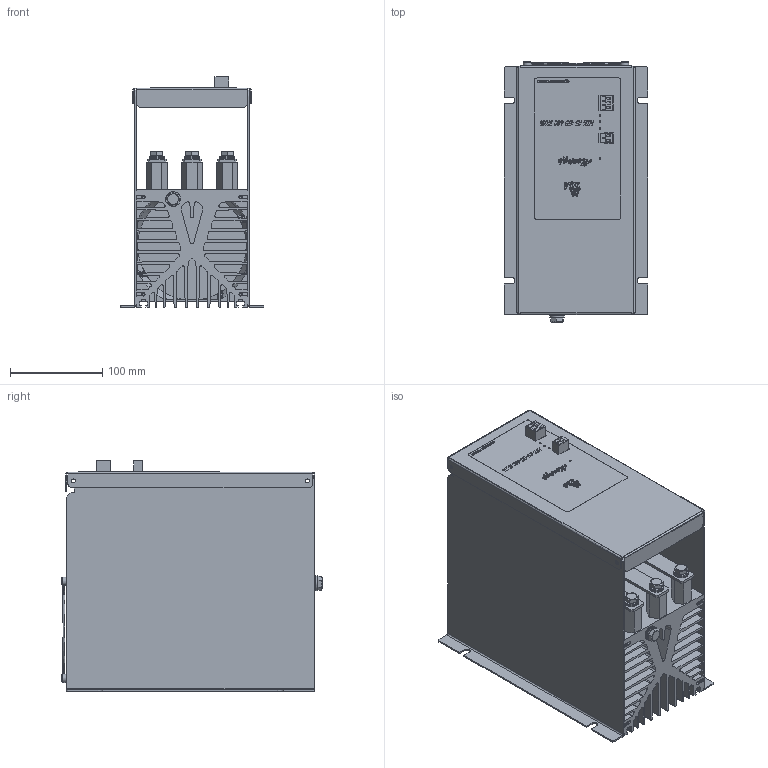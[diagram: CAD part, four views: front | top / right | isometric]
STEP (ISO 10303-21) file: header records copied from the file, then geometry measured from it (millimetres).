
FILE_DESCRIPTION(('STEP AP203'), '1');
FILE_NAME('ÌÒÊ 25-150 480 ÓÕË4', '2025-06-27T11:52:01', (''), ('ÎÎÎ "Ìåàíäð"'), 'C3D Converter', 'C3D Toolkit', '');
FILE_SCHEMA(('CONFIG_CONTROL_DESIGN'));
Length unit declared in the file: millimetre
Products named in the file (4): МТК-25-150; МТК; МР 83.0608.18 СБ
Assembly tree (9 placements, depth 2):
  (unnamed)
    МТК-25-150
    МТК
    МР 83.0608.18 СБ  x7
Bounding box: 155 x 281.5 x 249.4 mm (x, y, z)
Volume: 2419670.6 mm3; surface area: 1055023.1 mm2
Topology: 9 solids, 9 shells, 3686 faces, 10708 edges, 7066 vertices
Faces by surface type: plane 2061, extrusion 950, cylinder 562, torus 54, cone 40, bspline 16, sphere 3
Full cylindrical faces by diameter (mm): 4 x4, 4.2 x4, 4.572 x8, 5 x6, 6.1 x4, 6.8 x1, 8 x13, 8.4 x7, 9 x4, 11.6 x7, 16 x14, 117 x1, 118.662 x1
Entity records: 138437 total; most frequent: CARTESIAN_POINT 42113, ORIENTED_EDGE 19890, DIRECTION 14891, EDGE_CURVE 9945, VECTOR 7717, LINE 6767, VERTEX_POINT 6590, EDGE_LOOP 3691
